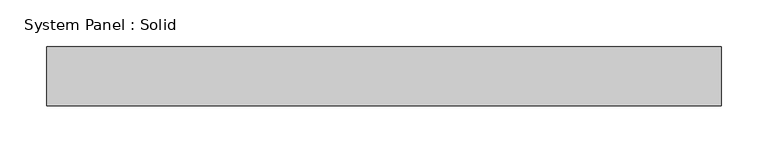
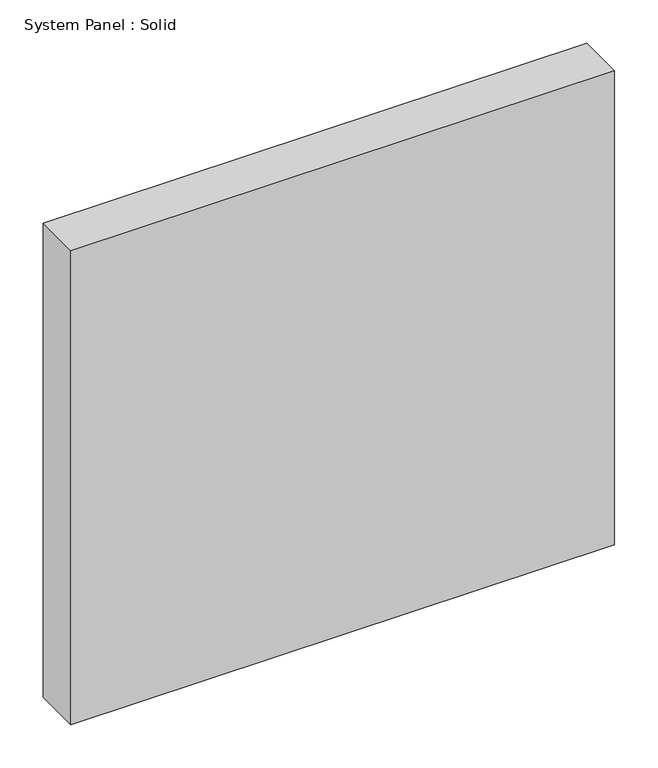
"""IFC4 building model written with IfcOpenShell, lengths in millimetres: plate geometry, System Panel : Solid."""

from ifc_helpers import new_model, si_unit, origin, origin_with_axes, place, context, project, spatial, polyline, outline, extrude, source, transform, mapped, element, save


def system_panel_solid_70661cca(model_context):
    return source(origin(), model_context, "Body", "SweptSolid", [
        extrude(outline(polyline([(361.95, -19.05), (-361.95, -19.05), (-361.95, 44.45), (361.95, 44.45), (361.95, -19.05)])), origin_with_axes(), (0.0, 0.0, 1.0), 666.75),
    ])


if __name__ == "__main__":
    model = new_model("IFC4")
    model_context = context("Model", 3, world=origin())
    ifc_project = project(units=[si_unit("LENGTHUNIT", "METRE", prefix="MILLI")], contexts=[model_context])
    site = spatial("IfcSite", under=ifc_project)
    building = spatial("IfcBuilding", under=site)
    placement = place(None, origin())
    system_panel_solid_shape = system_panel_solid_70661cca(model_context)
    element("IfcPlate", 1, ObjectType="System Panel : Solid", at=placement, inside=building, context=model_context, shape_type="MappedRepresentation", body=[
        mapped(system_panel_solid_shape, transform((0.0, 0.0, 0.0), x_axis=(1.0, 0.0, 0.0), y_axis=(0.0, 1.0, 0.0), z_axis=(0.0, 0.0, 1.0))),
    ])
    save(model, "model.ifc")
